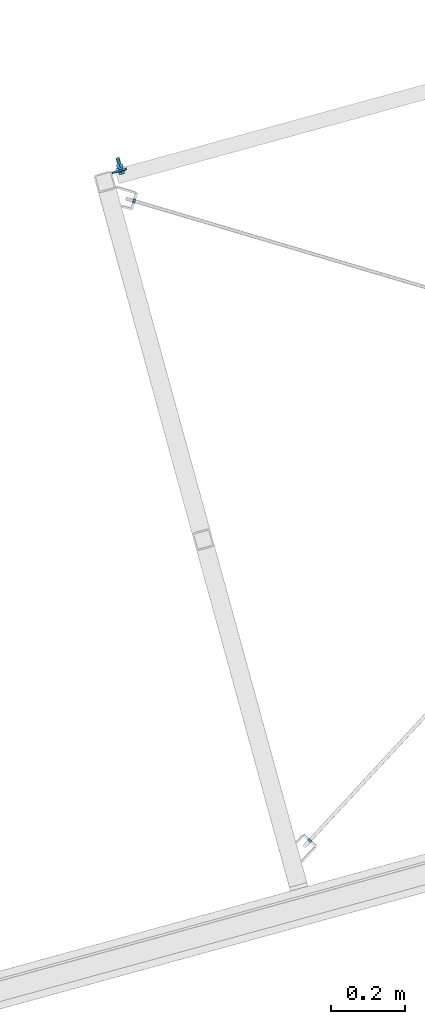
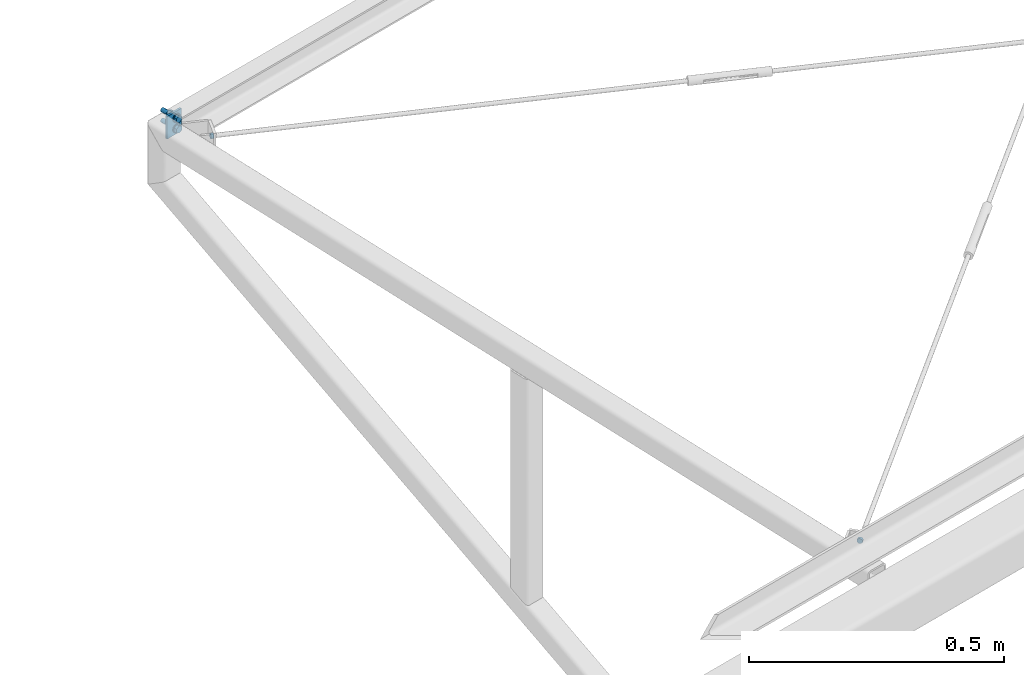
# One storey, part 158 of 169: 3 mechanical fasteners, 1 discrete accessory, 4 elements without a shape of their own.
"""IFC2X3 building model written with IfcOpenShell, lengths in millimetres."""

from ifc_helpers import new_model, si_unit, frame, origin_with_axes, origin_2d_with_axis, place, context, subcontext, project, spatial, polyline, circle, outline, extrude, source, transform, mapped, material, type_object, element, aggregate, save


model = new_model("IFC2X3")

# Units and contexts
model_context = context("Model", 3, precision=1e-05, world=origin_with_axes())
body_context = subcontext(model_context, "Body", "Model", "MODEL_VIEW")
ifc_project = project(units=[si_unit("LENGTHUNIT", "METRE", prefix="MILLI"), si_unit("AREAUNIT", "SQUARE_METRE"), si_unit("VOLUMEUNIT", "CUBIC_METRE"), si_unit("MASSUNIT", "GRAM", prefix="KILO"), si_unit("TIMEUNIT", "SECOND"), si_unit("PLANEANGLEUNIT", "RADIAN"), si_unit("SOLIDANGLEUNIT", "STERADIAN"), si_unit("THERMODYNAMICTEMPERATUREUNIT", "DEGREE_CELSIUS"), si_unit("LUMINOUSINTENSITYUNIT", "LUMEN")], contexts=[model_context])

# Site, building, storey
site_placement = place(None, origin_with_axes())
site = spatial("IfcSite", under=ifc_project, at=site_placement, Name="Undefined", CompositionType="ELEMENT")
building_placement = place(site_placement, origin_with_axes())
building = spatial("IfcBuilding", under=site, at=building_placement, Name="Undefined", CompositionType="ELEMENT")
storey_placement = place(building_placement, origin_with_axes())
storey = spatial("IfcBuildingStorey", under=building, at=storey_placement, Name="Undefined", CompositionType="ELEMENT", Elevation=0.0)

# Assembly, discrete accessory
assembly_1_placement = place(storey_placement, origin_with_axes())
assembly_1 = element("IfcElementAssembly", 1, at=assembly_1_placement, inside=storey, Name="Steel Assembly", AssemblyPlace="NOTDEFINED", PredefinedType="RIGID_FRAME")
ifc_material_1 = material(Name="STEEL/S235")
discrete_accessory_type_1 = type_object("IfcDiscreteAccessoryType", Name="BLACHA")
discrete_accessory_placement = place(assembly_1_placement, frame((-15200.8595725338, 19398.1686470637, 13973.5002771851), z_axis=(0.265001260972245, -0.964247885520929, 0.000589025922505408), x_axis=(0.000156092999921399, -0.000567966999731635, -0.999999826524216)))
discrete_accessory = element("IfcDiscreteAccessory", 2, at=discrete_accessory_placement, type_object=discrete_accessory_type_1, material=ifc_material_1, Name="BLACHA", ObjectType="BL40X5", context=body_context, shape_type="SweptSolid", body=[
    extrude(outline(polyline([(54.0000420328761, -20.0000000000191), (-3.27418092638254e-11, -20.0000000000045), (3.27418092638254e-11, 20.0000000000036), (54.0000420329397, 19.9999999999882), (54.0000420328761, -20.0000000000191)])), frame((6.80888809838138e-19, -2.87858853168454e-21, -2.49999999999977), z_axis=(0.0, 0.0, 1.0), x_axis=(1.0, 0.0, 0.0)), (0.0, 0.0, 1.0), 5.0),
])
aggregate(assembly_1, [discrete_accessory])

# Assembly, mechanical fastener
assembly_2_placement = place(storey_placement, origin_with_axes())
assembly_2 = element("IfcElementAssembly", 3, at=assembly_2_placement, inside=storey, Name="Steel Assembly", AssemblyPlace="NOTDEFINED", PredefinedType="RIGID_FRAME")
ifc_material_2 = material(Name="Undefined")
discrete_accessory_type_2 = type_object("IfcDiscreteAccessoryType", Name="Bolt assembly")
shared_shape_1 = source(origin_with_axes(), body_context, "Body", "SweptSolid", [
    extrude(circle(Radius=6.0, at=origin_2d_with_axis()), frame((0.0, -4.90000000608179, 0.0), z_axis=(0.0, 1.0, 0.0), x_axis=(1.0, 0.0, 0.0)), (0.0, 0.0, 1.0), 5.0),
    extrude(circle(Radius=6.0, at=origin_2d_with_axis()), frame((0.0, -0.100999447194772, 0.0), z_axis=(0.0, 1.0, 0.0), x_axis=(1.0, 0.0, 0.0)), (0.0, 0.0, 1.0), 4.1),
    extrude(outline(polyline([(8.66025403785, 0.0), (4.330127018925, 7.50000000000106), (-4.330127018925, 7.50000000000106), (-8.66025403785, 0.0), (-4.330127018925, -7.50000000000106), (4.330127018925, -7.50000000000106), (8.66025403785, 0.0)])), frame((0.0, -13.3999542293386, 0.0), z_axis=(0.0, 1.0, 0.0), x_axis=(1.0, 0.0, 0.0)), (0.0, 0.0, 1.0), 6.4),
    extrude(circle(Radius=5.0, at=origin_2d_with_axis()), frame((0.0, -6.99995413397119, 0.0), z_axis=(0.0, 1.0, 0.0), x_axis=(1.0, 0.0, 0.0)), (0.0, 0.0, 1.0), 40.0),
    extrude(circle(Radius=10.0, at=origin_2d_with_axis()), frame((0.0, -6.99995413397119, 0.0), z_axis=(0.0, 1.0, 0.0), x_axis=(1.0, 0.0, 0.0)), (0.0, 0.0, 1.0), 2.0),
    extrude(circle(Radius=10.0, at=origin_2d_with_axis()), frame((0.0, 3.99900055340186, 0.0), z_axis=(0.0, 1.0, 0.0), x_axis=(1.0, 0.0, 0.0)), (0.0, 0.0, 1.0), 2.0),
    extrude(outline(polyline([(9.81495457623, 0.0), (4.907477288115, 8.5000000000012), (-4.907477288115, 8.5000000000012), (-9.81495457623, 0.0), (-4.907477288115, -8.5000000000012), (4.907477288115, -8.5000000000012), (9.81495457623, 0.0)])), frame((0.0, 5.99900055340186, 0.0), z_axis=(0.0, 1.0, 0.0), x_axis=(1.0, 0.0, 0.0)), (0.0, 0.0, 1.0), 8.0),
])
mechanical_fastener_1_placement = place(assembly_2_placement, frame((-15220.8082733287, 19395.2837401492, 13981.4988032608), z_axis=(0.964248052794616, 0.265001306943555, 0.0), x_axis=(0.000156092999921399, -0.000567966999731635, -0.999999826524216)))
mechanical_fastener_1 = element("IfcMechanicalFastener", 4, at=mechanical_fastener_1_placement, type_object=discrete_accessory_type_2, material=ifc_material_2, Name="Bolt assembly", NominalDiameter=10.0, NominalLength=40.0, context=body_context, shape_type="MappedRepresentation", body=[
    mapped(shared_shape_1, transform((22.5000209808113, 9.45874489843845e-11, 25.0000000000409))),
    mapped(shared_shape_1, transform((47.5000228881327, 1.23691279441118e-10, 25.0000000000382))),
])
aggregate(assembly_2, [mechanical_fastener_1])

assembly_3_placement = place(storey_placement, origin_with_axes())
assembly_3 = element("IfcElementAssembly", 5, at=assembly_3_placement, inside=storey, Name="Steel Assembly", AssemblyPlace="NOTDEFINED", PredefinedType="RIGID_FRAME")
shared_shape_2 = source(origin_with_axes(), body_context, "Body", "SweptSolid", [
    extrude(circle(Radius=6.0, at=origin_2d_with_axis()), frame((0.0, 0.0, 0.0), z_axis=(0.0, 1.0, 0.0), x_axis=(1.0, 0.0, 0.0)), (0.0, 0.0, 1.0), 6.1),
])
mechanical_fastener_2_placement = place(assembly_3_placement, frame((-14685.2589549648, 17595.7628828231, 13862.4045701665), z_axis=(-0.0132372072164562, 0.0481657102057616, -0.998751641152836), x_axis=(0.734128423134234, -0.677684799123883, -0.042411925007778)))
mechanical_fastener_2 = element("IfcMechanicalFastener", 6, at=mechanical_fastener_2_placement, type_object=discrete_accessory_type_2, material=ifc_material_2, Name="Bolt assembly", NominalDiameter=10.0, NominalLength=6.0, context=body_context, shape_type="MappedRepresentation", body=[
    mapped(shared_shape_2, transform((0.0, 0.0, 0.0))),
])
aggregate(assembly_3, [mechanical_fastener_2])

assembly_4_placement = place(storey_placement, origin_with_axes())
assembly_4 = element("IfcElementAssembly", 7, at=assembly_4_placement, inside=storey, Name="Steel Assembly", AssemblyPlace="NOTDEFINED", PredefinedType="RIGID_FRAME")
mechanical_fastener_3_placement = place(assembly_4_placement, frame((-15158.04816007, 19316.0813851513, 13951.6100910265), z_axis=(0.0132299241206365, -0.0481391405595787, 0.998753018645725), x_axis=(0.284685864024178, 0.957683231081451, 0.0423885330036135)))
mechanical_fastener_3 = element("IfcMechanicalFastener", 8, at=mechanical_fastener_3_placement, type_object=discrete_accessory_type_2, material=ifc_material_2, Name="Bolt assembly", NominalDiameter=10.0, NominalLength=6.0, context=body_context, shape_type="MappedRepresentation", body=[
    mapped(shared_shape_2, transform((0.0, 0.0, 0.0))),
])
aggregate(assembly_4, [mechanical_fastener_3])

save(model, "model.ifc")
